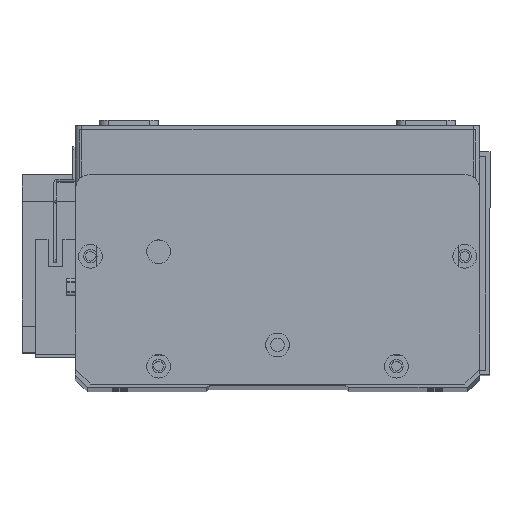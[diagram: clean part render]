
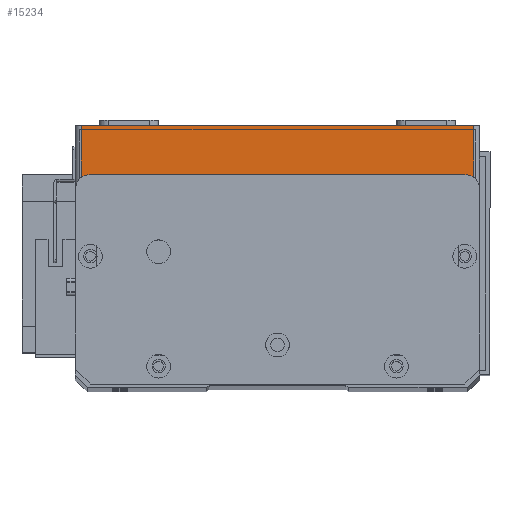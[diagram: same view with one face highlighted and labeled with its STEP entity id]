
A CAD part, top view. The second image highlights one B-rep face of the part: STEP entity #15234.
In plain terms, the highlighted planar face has unit normal (0, 0, 1) as drawn and (0, -1, 0) by its records, which use the part's own axes.
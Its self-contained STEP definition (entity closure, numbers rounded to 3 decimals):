
#378 = CARTESIAN_POINT ( 'NONE',  ( 0., 0., 19.5 ) ) ;
#753 = DIRECTION ( 'NONE',  ( 1., 0., 0. ) ) ;
#1130 = VECTOR ( 'NONE', #6723, 1000. ) ;
#2566 = VERTEX_POINT ( 'NONE', #24504 ) ;
#3617 = EDGE_CURVE ( 'NONE', #27927, #27457, #5414, .T. ) ;
#5414 = LINE ( 'NONE', #7675, #17454 ) ;
#5459 = CARTESIAN_POINT ( 'NONE',  ( 2., 0., 19.5 ) ) ;
#5532 = VECTOR ( 'NONE', #25105, 1000. ) ;
#5701 = EDGE_CURVE ( 'NONE', #25402, #2566, #7060, .T. ) ;
#6723 = DIRECTION ( 'NONE',  ( 0., 0., 1. ) ) ;
#6801 = CARTESIAN_POINT ( 'NONE',  ( 134., 0., 19.5 ) ) ;
#7060 = LINE ( 'NONE', #6801, #1130 ) ;
#7608 = DIRECTION ( 'NONE',  ( 0., 0., -1. ) ) ;
#7675 = CARTESIAN_POINT ( 'NONE',  ( 2., 0., 19.5 ) ) ;
#9586 = EDGE_CURVE ( 'NONE', #27927, #2566, #21667, .T. ) ;
#10804 = FACE_OUTER_BOUND ( 'NONE', #11974, .T. ) ;
#11668 = ORIENTED_EDGE ( 'NONE', *, *, #9586, .F. ) ;
#11974 = EDGE_LOOP ( 'NONE', ( #11668, #15246, #18828, #20001 ) ) ;
#12183 = LINE ( 'NONE', #25104, #5532 ) ;
#12854 = CARTESIAN_POINT ( 'NONE',  ( 134., 0., 0. ) ) ;
#14747 = EDGE_CURVE ( 'NONE', #27457, #25402, #12183, .T. ) ;
#14862 = VECTOR ( 'NONE', #753, 1000. ) ;
#15234 = ADVANCED_FACE ( 'NONE', ( #10804 ), #17158, .F. ) ;
#15246 = ORIENTED_EDGE ( 'NONE', *, *, #3617, .T. ) ;
#16903 = DIRECTION ( 'NONE',  ( 0., 0., 1. ) ) ;
#16966 = DIRECTION ( 'NONE',  ( 0., 1., 0. ) ) ;
#17158 = PLANE ( 'NONE',  #26049 ) ;
#17285 = CARTESIAN_POINT ( 'NONE',  ( 0., 0., 19.5 ) ) ;
#17454 = VECTOR ( 'NONE', #7608, 1000. ) ;
#18828 = ORIENTED_EDGE ( 'NONE', *, *, #14747, .T. ) ;
#19974 = CARTESIAN_POINT ( 'NONE',  ( 2., 0., 0. ) ) ;
#20001 = ORIENTED_EDGE ( 'NONE', *, *, #5701, .T. ) ;
#21667 = LINE ( 'NONE', #378, #14862 ) ;
#24504 = CARTESIAN_POINT ( 'NONE',  ( 134., 0., 19.5 ) ) ;
#25104 = CARTESIAN_POINT ( 'NONE',  ( 0., 0., 0. ) ) ;
#25105 = DIRECTION ( 'NONE',  ( 1., 0., 0. ) ) ;
#25402 = VERTEX_POINT ( 'NONE', #12854 ) ;
#26049 = AXIS2_PLACEMENT_3D ( 'NONE', #17285, #16966, #16903 ) ;
#27457 = VERTEX_POINT ( 'NONE', #19974 ) ;
#27927 = VERTEX_POINT ( 'NONE', #5459 ) ;
